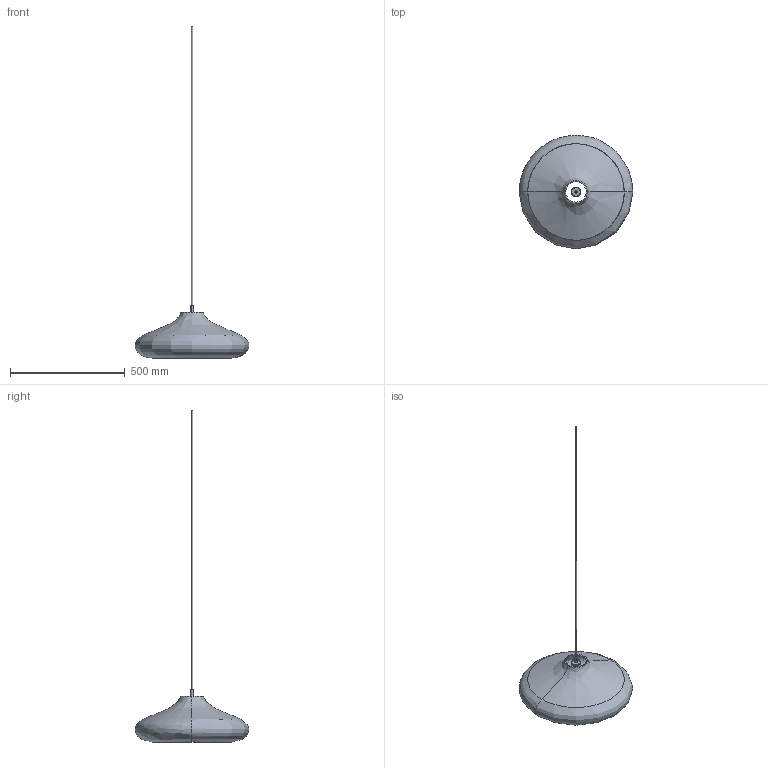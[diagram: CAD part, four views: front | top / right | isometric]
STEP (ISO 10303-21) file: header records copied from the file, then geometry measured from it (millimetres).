
FILE_DESCRIPTION(/* description */ (''),/* implementation_level */ '2;1');
FILE_NAME(/* name */ 'BW2PFK~N',/* time_stamp */ '2019-09-06T13:54:55+02:00',/* author */ (''),/* organization */ (''),/* preprocessor_version */ 'ST-DEVELOPER v16.5',/* originating_system */ '',/* authorisation */ '');
FILE_SCHEMA (('AUTOMOTIVE_DESIGN'));
Length unit declared in the file: millimetre
Products named in the file (3): Document; bulb fitting cover E27; tube
Assembly tree (2 placements, depth 2):
  Document
    bulb fitting cover E27
    tube
Bounding box: 494.53 x 494.36 x 1444.67 mm (x, y, z)
Volume: 1942024.2 mm3; surface area: 794698.6 mm2
Topology: 4 solids, 4 shells, 35 faces, 68 edges, 40 vertices
Faces by surface type: bspline 28, plane 7
Entity records: 2117 total; most frequent: CARTESIAN_POINT 1627, ORIENTED_EDGE 136, EDGE_CURVE 68, EDGE_LOOP 40, VERTEX_POINT 40, ADVANCED_FACE 35, FACE_OUTER_BOUND 35, DIRECTION 23
